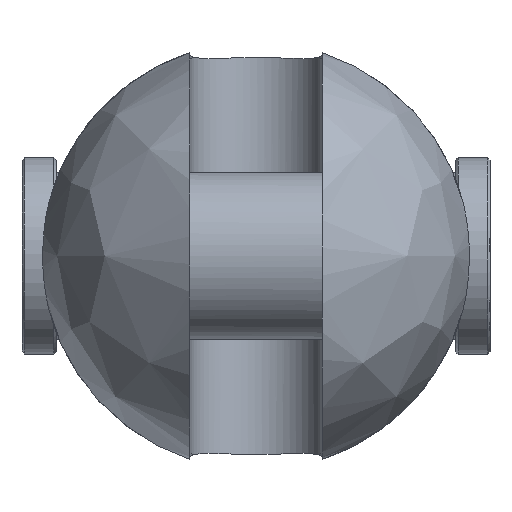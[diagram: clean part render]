
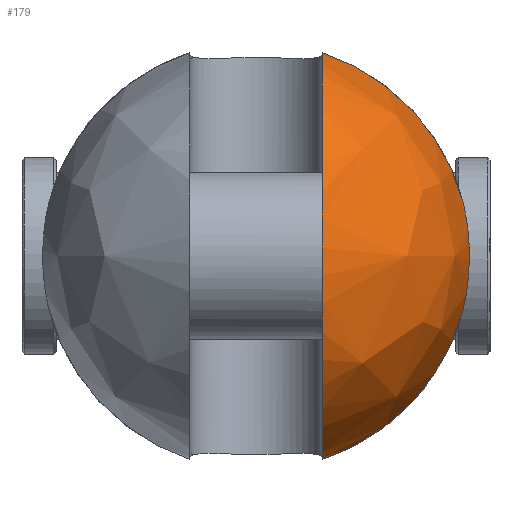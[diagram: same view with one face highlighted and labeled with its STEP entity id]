
A CAD part, left-side view. The second image highlights one B-rep face of the part: STEP entity #179.
In plain terms, the highlighted free-form (B-spline) face has degree [2, 2] with [9, 5] control points.
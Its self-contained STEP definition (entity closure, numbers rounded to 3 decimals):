
#179=ADVANCED_FACE('',(#320),#2417,.T.);
#320=FACE_OUTER_BOUND('',#481,.T.);
#481=EDGE_LOOP('',(#1194,#1195,#1196,#1197));
#1194=ORIENTED_EDGE('',*,*,#1575,.T.);
#1195=ORIENTED_EDGE('',*,*,#1603,.F.);
#1196=ORIENTED_EDGE('',*,*,#1615,.T.);
#1197=ORIENTED_EDGE('',*,*,#1595,.F.);
#1575=EDGE_CURVE('',#2249,#2248,#1983,.T.);
#1595=EDGE_CURVE('',#2249,#2261,#1993,.T.);
#1603=EDGE_CURVE('',#2268,#2248,#1994,.T.);
#1615=EDGE_CURVE('',#2268,#2261,#1789,.T.);
#1789=B_SPLINE_CURVE_WITH_KNOTS('',3,(#6107,#6108,#6109,#6110,#6111,#6112,
#6113,#6114,#6115,#6116,#6117,#6118,#6119,#6120),.UNSPECIFIED.,.F.,.F.,
(4,2,2,2,2,2,4),(0.,1.205,6.345,11.484,
16.624,21.764,22.969),.UNSPECIFIED.);
#1983=(
BOUNDED_CURVE()
B_SPLINE_CURVE(2,(#5883,#5884,#5885,#5886,#5887),.UNSPECIFIED.,.F.,.F.)
B_SPLINE_CURVE_WITH_KNOTS((3,2,3),(-129.912,-64.956,
0.),.UNSPECIFIED.)
CURVE()
GEOMETRIC_REPRESENTATION_ITEM()
RATIONAL_B_SPLINE_CURVE((1.,0.707,1.,0.707,1.))
REPRESENTATION_ITEM('')
);
#1993=(
BOUNDED_CURVE()
B_SPLINE_CURVE(2,(#5977,#5978,#5979),.UNSPECIFIED.,.F.,.F.)
B_SPLINE_CURVE_WITH_KNOTS((3,3),(0.,43.672),.UNSPECIFIED.)
CURVE()
GEOMETRIC_REPRESENTATION_ITEM()
RATIONAL_B_SPLINE_CURVE((1.,0.877,1.))
REPRESENTATION_ITEM('')
);
#1994=(
BOUNDED_CURVE()
B_SPLINE_CURVE(2,(#6034,#6035,#6036),.UNSPECIFIED.,.F.,.F.)
B_SPLINE_CURVE_WITH_KNOTS((3,3),(0.,43.672),.UNSPECIFIED.)
CURVE()
GEOMETRIC_REPRESENTATION_ITEM()
RATIONAL_B_SPLINE_CURVE((1.,0.877,1.))
REPRESENTATION_ITEM('')
);
#2248=VERTEX_POINT('',#5767);
#2249=VERTEX_POINT('',#5768);
#2261=VERTEX_POINT('',#5780);
#2268=VERTEX_POINT('',#5787);
#2417=(
BOUNDED_SURFACE()
B_SPLINE_SURFACE(2,2,((#5481,#5482,#5483,#5484,#5485),(#5486,#5487,#5488,
#5489,#5490),(#5491,#5492,#5493,#5494,#5495),(#5496,#5497,#5498,#5499,#5500),
(#5501,#5502,#5503,#5504,#5505),(#5506,#5507,#5508,#5509,#5510),(#5511,
#5512,#5513,#5514,#5515),(#5516,#5517,#5518,#5519,#5520),(#5521,#5522,#5523,
#5524,#5525)),.UNSPECIFIED.,.T.,.F.,.F.)
B_SPLINE_SURFACE_WITH_KNOTS((3,2,2,2,3),(3,2,3),(0.,68.33,136.659,
204.989,273.319),(0.,68.33,136.659),
 .UNSPECIFIED.)
GEOMETRIC_REPRESENTATION_ITEM()
RATIONAL_B_SPLINE_SURFACE(((1.,0.707,1.,0.707,1.),
(0.707,0.5,0.707,0.5,0.707),(1.,0.707,
1.,0.707,1.),(0.707,0.5,0.707,0.5,0.707),
(1.,0.707,1.,0.707,1.),(0.707,0.5,0.707,
0.5,0.707),(1.,0.707,1.,0.707,1.),(0.707,
0.5,0.707,0.5,0.707),(1.,0.707,1.,0.707,
1.)))
REPRESENTATION_ITEM('')
SURFACE()
);
#5481=CARTESIAN_POINT('',(-61.5,0.,0.));
#5482=CARTESIAN_POINT('',(-61.5,43.5,0.));
#5483=CARTESIAN_POINT('',(-18.,43.5,0.));
#5484=CARTESIAN_POINT('',(25.5,43.5,0.));
#5485=CARTESIAN_POINT('',(25.5,0.,0.));
#5486=CARTESIAN_POINT('',(-61.5,0.,0.));
#5487=CARTESIAN_POINT('',(-61.5,43.5,43.5));
#5488=CARTESIAN_POINT('',(-18.,43.5,43.5));
#5489=CARTESIAN_POINT('',(25.5,43.5,43.5));
#5490=CARTESIAN_POINT('',(25.5,0.,0.));
#5491=CARTESIAN_POINT('',(-61.5,0.,0.));
#5492=CARTESIAN_POINT('',(-61.5,0.,43.5));
#5493=CARTESIAN_POINT('',(-18.,0.,43.5));
#5494=CARTESIAN_POINT('',(25.5,0.,43.5));
#5495=CARTESIAN_POINT('',(25.5,0.,0.));
#5496=CARTESIAN_POINT('',(-61.5,0.,0.));
#5497=CARTESIAN_POINT('',(-61.5,-43.5,43.5));
#5498=CARTESIAN_POINT('',(-18.,-43.5,43.5));
#5499=CARTESIAN_POINT('',(25.5,-43.5,43.5));
#5500=CARTESIAN_POINT('',(25.5,0.,0.));
#5501=CARTESIAN_POINT('',(-61.5,0.,0.));
#5502=CARTESIAN_POINT('',(-61.5,-43.5,0.));
#5503=CARTESIAN_POINT('',(-18.,-43.5,0.));
#5504=CARTESIAN_POINT('',(25.5,-43.5,0.));
#5505=CARTESIAN_POINT('',(25.5,0.,0.));
#5506=CARTESIAN_POINT('',(-61.5,0.,0.));
#5507=CARTESIAN_POINT('',(-61.5,-43.5,-43.5));
#5508=CARTESIAN_POINT('',(-18.,-43.5,-43.5));
#5509=CARTESIAN_POINT('',(25.5,-43.5,-43.5));
#5510=CARTESIAN_POINT('',(25.5,0.,0.));
#5511=CARTESIAN_POINT('',(-61.5,0.,0.));
#5512=CARTESIAN_POINT('',(-61.5,0.,-43.5));
#5513=CARTESIAN_POINT('',(-18.,0.,-43.5));
#5514=CARTESIAN_POINT('',(25.5,0.,-43.5));
#5515=CARTESIAN_POINT('',(25.5,0.,0.));
#5516=CARTESIAN_POINT('',(-61.5,0.,0.));
#5517=CARTESIAN_POINT('',(-61.5,43.5,-43.5));
#5518=CARTESIAN_POINT('',(-18.,43.5,-43.5));
#5519=CARTESIAN_POINT('',(25.5,43.5,-43.5));
#5520=CARTESIAN_POINT('',(25.5,0.,0.));
#5521=CARTESIAN_POINT('',(-61.5,0.,0.));
#5522=CARTESIAN_POINT('',(-61.5,43.5,0.));
#5523=CARTESIAN_POINT('',(-18.,43.5,0.));
#5524=CARTESIAN_POINT('',(25.5,43.5,0.));
#5525=CARTESIAN_POINT('',(25.5,0.,0.));
#5767=CARTESIAN_POINT('',(-18.,-13.5,-41.352));
#5768=CARTESIAN_POINT('',(-18.,-13.5,41.352));
#5780=CARTESIAN_POINT('',(-18.,-42.134,10.817));
#5787=CARTESIAN_POINT('',(-18.,-42.134,-10.817));
#5883=CARTESIAN_POINT('',(-18.,-13.5,41.352));
#5884=CARTESIAN_POINT('',(-59.352,-13.5,41.352));
#5885=CARTESIAN_POINT('',(-59.352,-13.5,0.));
#5886=CARTESIAN_POINT('',(-59.352,-13.5,-41.352));
#5887=CARTESIAN_POINT('',(-18.,-13.5,-41.352));
#5977=CARTESIAN_POINT('',(-18.,-13.5,41.352));
#5978=CARTESIAN_POINT('',(-18.,-36.197,33.942));
#5979=CARTESIAN_POINT('',(-18.,-42.134,10.817));
#6034=CARTESIAN_POINT('',(-18.,-42.134,-10.817));
#6035=CARTESIAN_POINT('',(-18.,-36.197,-33.942));
#6036=CARTESIAN_POINT('',(-18.,-13.5,-41.352));
#6107=CARTESIAN_POINT('',(-18.,-42.134,-10.817));
#6108=CARTESIAN_POINT('',(-18.204,-42.221,-10.477));
#6109=CARTESIAN_POINT('',(-18.399,-42.304,-10.131));
#6110=CARTESIAN_POINT('',(-19.374,-42.718,-8.278));
#6111=CARTESIAN_POINT('',(-19.986,-42.974,-6.668));
#6112=CARTESIAN_POINT('',(-20.799,-43.313,-3.361));
#6113=CARTESIAN_POINT('',(-21.,-43.396,-1.664));
#6114=CARTESIAN_POINT('',(-21.,-43.396,1.664));
#6115=CARTESIAN_POINT('',(-20.799,-43.313,3.361));
#6116=CARTESIAN_POINT('',(-19.986,-42.974,6.668));
#6117=CARTESIAN_POINT('',(-19.374,-42.718,8.278));
#6118=CARTESIAN_POINT('',(-18.399,-42.304,10.131));
#6119=CARTESIAN_POINT('',(-18.204,-42.221,10.477));
#6120=CARTESIAN_POINT('',(-18.,-42.134,10.817));
